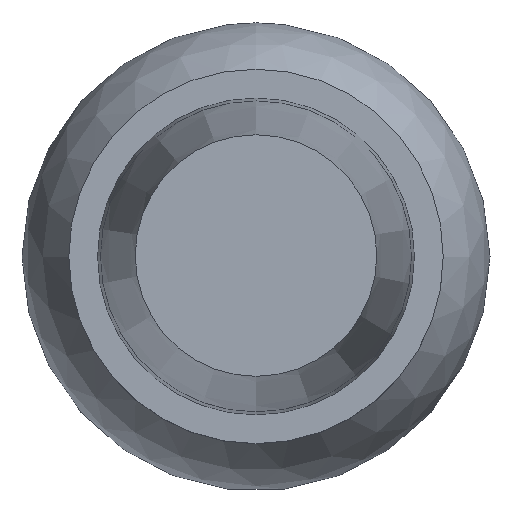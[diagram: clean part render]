
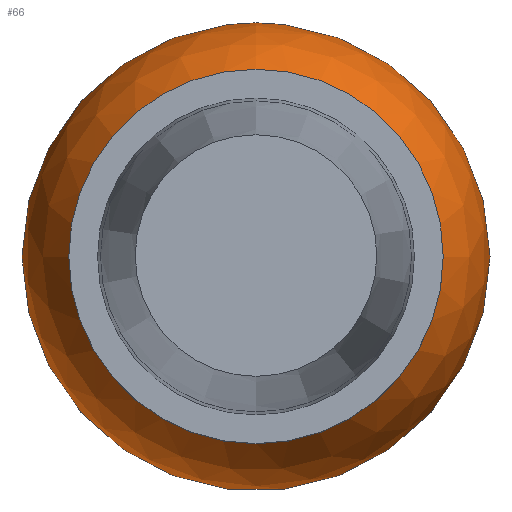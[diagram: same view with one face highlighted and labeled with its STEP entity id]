
A CAD part, top view. The second image highlights one B-rep face of the part: STEP entity #66.
In plain terms, the highlighted spherical face has radius 10 mm.
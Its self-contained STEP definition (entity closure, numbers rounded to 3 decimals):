
#25=SPHERICAL_SURFACE('',#172,10.);
#66=ADVANCED_FACE('',(#78),#25,.T.);
#78=FACE_OUTER_BOUND('',#92,.T.);
#92=EDGE_LOOP('',(#106));
#106=ORIENTED_EDGE('',*,*,#121,.F.);
#114=VERTEX_POINT('',#241);
#121=EDGE_CURVE('',#114,#114,#128,.T.);
#128=CIRCLE('',#171,8.);
#171=AXIS2_PLACEMENT_3D('',#240,#210,#211);
#172=AXIS2_PLACEMENT_3D('',#242,#212,#213);
#210=DIRECTION('',(0.,0.,1.));
#211=DIRECTION('',(0.,-1.,0.));
#212=DIRECTION('',(0.,0.,1.));
#213=DIRECTION('',(0.,1.,0.));
#240=CARTESIAN_POINT('',(0.,0.,-5.937));
#241=CARTESIAN_POINT('',(0.,-8.,-5.937));
#242=CARTESIAN_POINT('',(0.,0.,-11.937));
